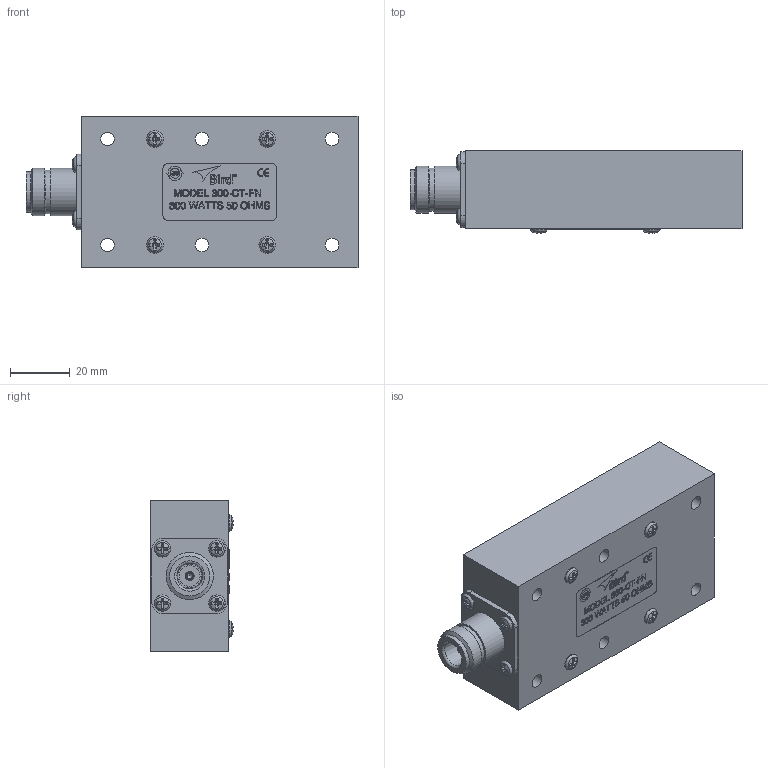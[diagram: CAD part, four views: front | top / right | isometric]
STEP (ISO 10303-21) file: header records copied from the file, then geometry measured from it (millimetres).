
FILE_DESCRIPTION(/* description */ ('300-ct-fn'),/* implementation_level */ '2;1');
FILE_NAME(/* name */ '300-CT-FN',/* time_stamp */ '2018-04-05T14:14:27-04:00',/* author */ ('T.SMITH'),/* organization */ ('Bird'),/* preprocessor_version */ 'ST-DEVELOPER v16.7',/* originating_system */ 'DEX',/* authorisation */ $);
FILE_SCHEMA (('AUTOMOTIVE_DESIGN {1 0 10303 214 3 1 1}'));
Length unit declared in the file: millimetre
Products named in the file (1): Part5
Bounding box: 111.46 x 27.77 x 50.8 mm (x, y, z)
Volume: 124871.7 mm3; surface area: 21319.2 mm2
Topology: 1 solids, 11 shells, 905 faces, 2402 edges, 1593 vertices
Faces by surface type: plane 634, cylinder 139, bspline 83, cone 33, torus 8, sphere 8
Full cylindrical faces by diameter (mm): 2.845 x16, 2.972 x1, 3.048 x5, 3.175 x4, 4.597 x6, 7.01 x2, 9.982 x2, 12.649 x1, 12.725 x1, 13.487 x1, 14.529 x1, 15.845 x1, 15.875 x1
Entity records: 36254 total; most frequent: CARTESIAN_POINT 8178, ORIENTED_EDGE 4522, DIRECTION 4161, EDGE_CURVE 2261, LINE 1583, VECTOR 1583, VERTEX_POINT 1555, AXIS2_PLACEMENT_3D 1289
